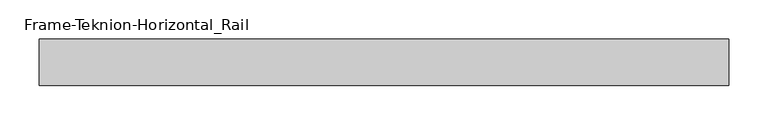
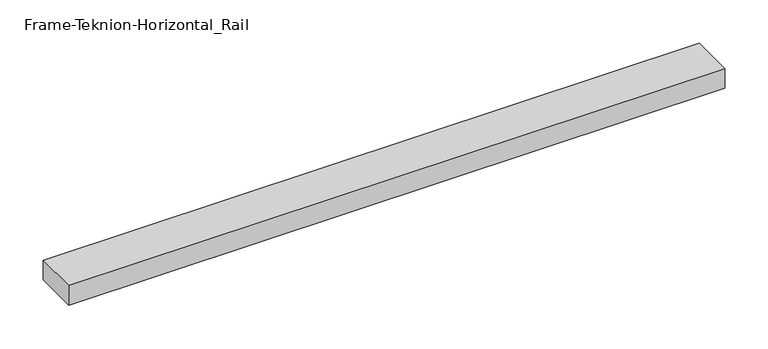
"""IFC4 building model written with IfcOpenShell, lengths in millimetres: proxy geometry, Frame-Teknion-Horizontal_Rail : FPKK."""

from ifc_helpers import new_model, si_unit, frame, origin, place, context, project, spatial, polyline, outline, extrude, source, transform, mapped, element, save


def frame_teknion_horizontal_rail_5872ae1a(model_context):
    return source(origin(), model_context, "Body", "SweptSolid", [
        extrude(outline(polyline([(-436.2152344, -29.2199219), (-436.2152344, 29.2199219), (436.2152344, 29.2199219), (436.2152344, -29.2199219), (-436.2152344, -29.2199219)])), frame((0.0, 0.0, -13.9898438), z_axis=(0.0, 0.0, 1.0), x_axis=(1.0, 0.0, 0.0)), (0.0, 0.0, 1.0), 27.9796875),
    ])


if __name__ == "__main__":
    model = new_model("IFC4")
    model_context = context("Model", 3, world=origin())
    ifc_project = project(units=[si_unit("LENGTHUNIT", "METRE", prefix="MILLI")], contexts=[model_context])
    site = spatial("IfcSite", under=ifc_project)
    building = spatial("IfcBuilding", under=site)
    placement = place(None, origin())
    frame_teknion_horizontal_rail_shape = frame_teknion_horizontal_rail_5872ae1a(model_context)
    element("IfcBuildingElementProxy", 1, Name="Frame-Teknion-Horizontal_Rail : FPKK", ObjectType="Frame-Teknion-Horizontal_Rail : FPKK", at=placement, inside=building, context=model_context, shape_type="MappedRepresentation", body=[
        mapped(frame_teknion_horizontal_rail_shape, transform((0.0, 0.0, 0.0), x_axis=(1.0, 0.0, 0.0), y_axis=(0.0, 1.0, 0.0), z_axis=(0.0, 0.0, 1.0))),
    ])
    save(model, "model.ifc")
